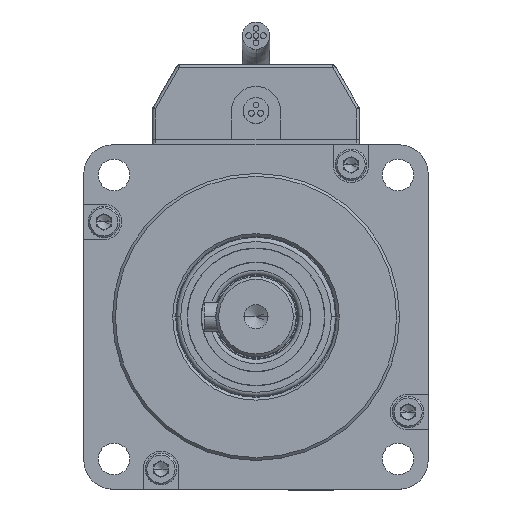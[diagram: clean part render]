
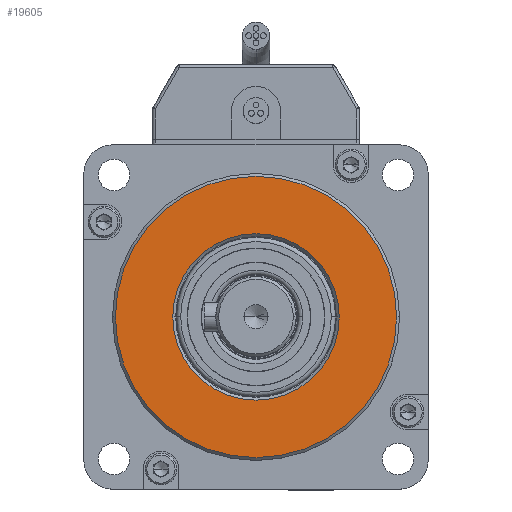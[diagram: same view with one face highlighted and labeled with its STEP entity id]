
A CAD part, top view. The second image highlights one B-rep face of the part: STEP entity #19605.
In plain terms, the highlighted planar face has unit normal (0, 0, 1).
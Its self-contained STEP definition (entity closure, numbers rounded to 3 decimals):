
#486 = DIRECTION ( 'NONE',  ( 0., 0., 1. ) ) ;
#816 = DIRECTION ( 'NONE',  ( 1., 0., 0. ) ) ;
#1120 = CARTESIAN_POINT ( 'NONE',  ( 14.5, 0., 3. ) ) ;
#2158 = CARTESIAN_POINT ( 'NONE',  ( 0., 0., 3. ) ) ;
#2436 = EDGE_CURVE ( 'NONE', #14525, #16798, #15643, .T. ) ;
#2444 = CARTESIAN_POINT ( 'NONE',  ( 0., 0., 3. ) ) ;
#2731 = CIRCLE ( 'NONE', #11952, 24.5 ) ;
#2837 = DIRECTION ( 'NONE',  ( 1., 0., 0. ) ) ;
#3030 = CARTESIAN_POINT ( 'NONE',  ( 0., 0., 3. ) ) ;
#3328 = EDGE_LOOP ( 'NONE', ( #6786, #18549 ) ) ;
#3531 = CIRCLE ( 'NONE', #8610, 24.5 ) ;
#3691 = DIRECTION ( 'NONE',  ( 0., 0., 1. ) ) ;
#4360 = VERTEX_POINT ( 'NONE', #9053 ) ;
#6482 = CARTESIAN_POINT ( 'NONE',  ( 0., 0., 3. ) ) ;
#6677 = PLANE ( 'NONE',  #14708 ) ;
#6786 = ORIENTED_EDGE ( 'NONE', *, *, #19388, .T. ) ;
#7812 = CARTESIAN_POINT ( 'NONE',  ( -14.5, 0., 3. ) ) ;
#8103 = AXIS2_PLACEMENT_3D ( 'NONE', #10169, #13149, #816 ) ;
#8610 = AXIS2_PLACEMENT_3D ( 'NONE', #2444, #19142, #2837 ) ;
#9053 = CARTESIAN_POINT ( 'NONE',  ( 24.5, 0., 3. ) ) ;
#9184 = EDGE_CURVE ( 'NONE', #18194, #4360, #3531, .T. ) ;
#9759 = FACE_BOUND ( 'NONE', #3328, .T. ) ;
#10169 = CARTESIAN_POINT ( 'NONE',  ( 0., 0., 3. ) ) ;
#11155 = DIRECTION ( 'NONE',  ( 1., 0., 0. ) ) ;
#11227 = AXIS2_PLACEMENT_3D ( 'NONE', #3030, #18224, #16733 ) ;
#11952 = AXIS2_PLACEMENT_3D ( 'NONE', #2158, #486, #12619 ) ;
#12362 = CARTESIAN_POINT ( 'NONE',  ( -24.5, 0., 3. ) ) ;
#12619 = DIRECTION ( 'NONE',  ( 1., 0., 0. ) ) ;
#13149 = DIRECTION ( 'NONE',  ( 0., 0., -1. ) ) ;
#13416 = ORIENTED_EDGE ( 'NONE', *, *, #14230, .T. ) ;
#14230 = EDGE_CURVE ( 'NONE', #4360, #18194, #2731, .T. ) ;
#14525 = VERTEX_POINT ( 'NONE', #7812 ) ;
#14708 = AXIS2_PLACEMENT_3D ( 'NONE', #6482, #3691, #11155 ) ;
#15643 = CIRCLE ( 'NONE', #11227, 14.5 ) ;
#15793 = FACE_OUTER_BOUND ( 'NONE', #15936, .T. ) ;
#15936 = EDGE_LOOP ( 'NONE', ( #16401, #13416 ) ) ;
#16401 = ORIENTED_EDGE ( 'NONE', *, *, #9184, .T. ) ;
#16652 = CIRCLE ( 'NONE', #8103, 14.5 ) ;
#16733 = DIRECTION ( 'NONE',  ( 1., 0., 0. ) ) ;
#16798 = VERTEX_POINT ( 'NONE', #1120 ) ;
#18194 = VERTEX_POINT ( 'NONE', #12362 ) ;
#18224 = DIRECTION ( 'NONE',  ( 0., 0., -1. ) ) ;
#18549 = ORIENTED_EDGE ( 'NONE', *, *, #2436, .T. ) ;
#19142 = DIRECTION ( 'NONE',  ( 0., 0., 1. ) ) ;
#19388 = EDGE_CURVE ( 'NONE', #16798, #14525, #16652, .T. ) ;
#19605 = ADVANCED_FACE ( 'NONE', ( #9759, #15793 ), #6677, .T. ) ;
